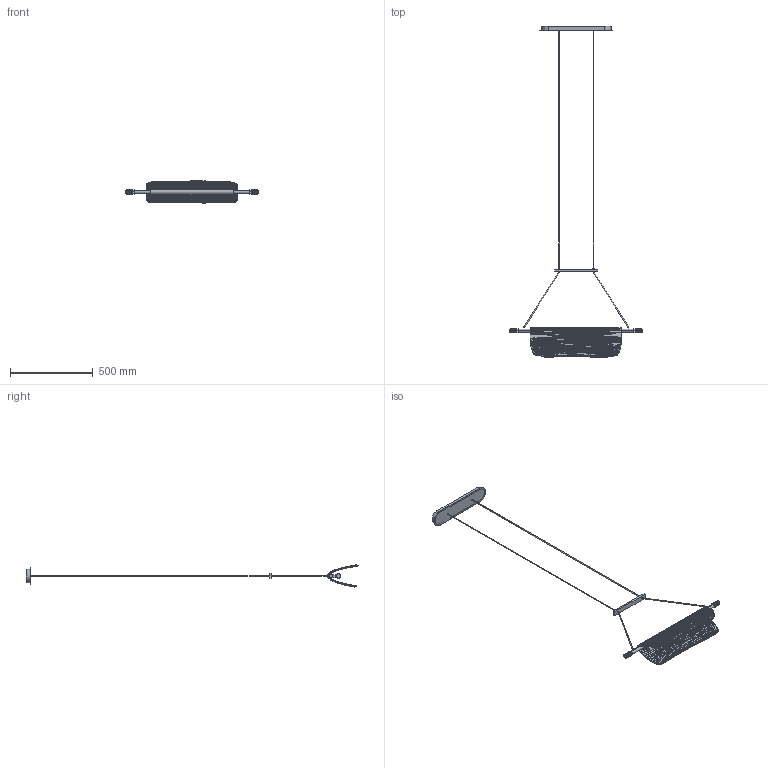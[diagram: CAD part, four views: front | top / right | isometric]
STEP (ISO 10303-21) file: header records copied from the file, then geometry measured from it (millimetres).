
FILE_DESCRIPTION (( 'STEP AP214' ), '1' );
FILE_NAME ('C1357.STEP', '2025-10-21T10:26:41', ( '' ), ( '' ), 'SwSTEP 2.0', 'SolidWorks 2018', '' );
FILE_SCHEMA (( 'AUTOMOTIVE_DESIGN' ));
Length unit declared in the file: millimetre
Products named in the file (7): NIRO_C1314-Simetría8.STEP; C1357; Ar5_1.1_NV2.STEP; tornillo.STEP; pantalla2.STEP; floron 3.STEP; Ar5_1.1_SOLOLUMINARIA.STEP
Assembly tree (7 placements, depth 3):
  C1357
    Ar5_1.1_NV2.STEP
      Ar5_1.1_SOLOLUMINARIA.STEP
      NIRO_C1314-Simetría8.STEP
      pantalla2.STEP
      floron 3.STEP
      tornillo.STEP  x2
Bounding box: 798 x 2001.06 x 132.62 mm (x, y, z)
Volume: 3276050.7 mm3; surface area: 714981.4 mm2
Topology: 18 solids, 18 shells, 7936 faces, 12462 edges, 4501 vertices
Faces by surface type: plane 7421, cylinder 249, torus 170, sphere 64, cone 16, bspline 16
Entity records: 165804 total; most frequent: CARTESIAN_POINT 31053, DIRECTION 28628, ORIENTED_EDGE 24764, EDGE_CURVE 12382, VECTOR 11350, LINE 11350, AXIS2_PLACEMENT_3D 8639, EDGE_LOOP 7941
